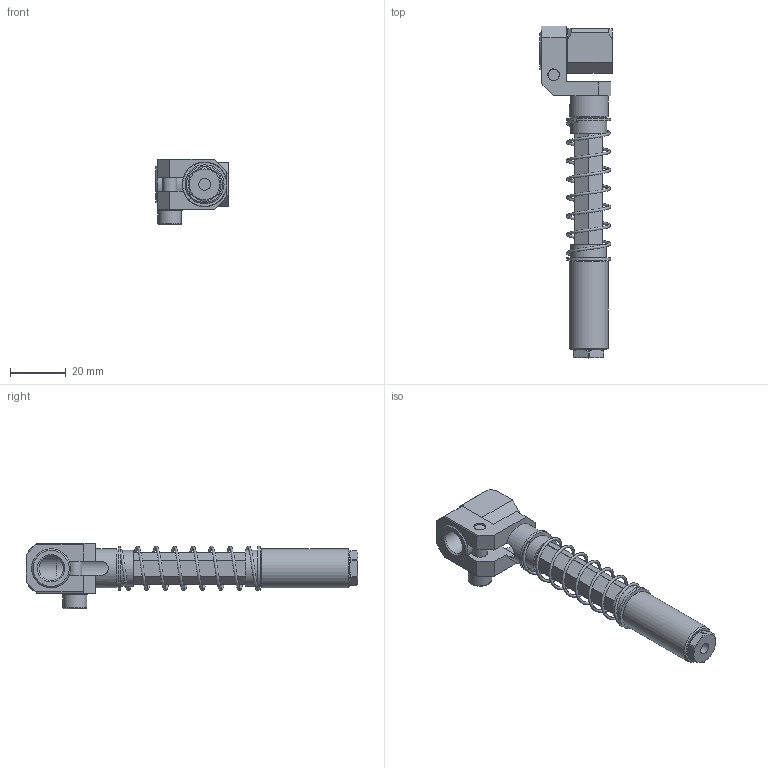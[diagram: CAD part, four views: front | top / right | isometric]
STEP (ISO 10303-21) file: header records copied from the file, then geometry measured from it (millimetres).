
FILE_DESCRIPTION(('STEP AP214'),'1');
FILE_NAME('CA.SAS.14181840.stp','2022-01-21T12:39:37',(' '),(' '),'Spatial InterOp 3D',' ',' ');
FILE_SCHEMA(('AUTOMOTIVE_DESIGN { 1 0 10303 214 1 1 1 1 }'));
Length unit declared in the file: millimetre
Products named in the file (10): CA.SAS.14181840; M.14.8X55; V.TCE5x18; R.5.SCH; GGB.14.18.18; SAE.14181815.4; SAE.14181815.5; SAE.14181815.3; SAE.14181840.1; SAS.14.1
Assembly tree (10 placements, depth 2):
  CA.SAS.14181840
    M.14.8X55
    V.TCE5x18
    R.5.SCH
    GGB.14.18.18
    SAE.14181815.4  x2
    SAE.14181815.5
    SAE.14181815.3
    SAE.14181840.1
    SAS.14.1
Bounding box: 26 x 119 x 23.5 mm (x, y, z)
Volume: 15367.4 mm3; surface area: 16573.3 mm2
Topology: 10 solids, 10 shells, 367 faces, 1000 edges, 654 vertices
Faces by surface type: plane 272, cylinder 53, cone 36, torus 5, bspline 1
Full cylindrical faces by diameter (mm): 4.2 x2, 5 x1, 5.3 x1, 5.5 x1, 6.8 x4, 8 x3, 8.2 x2, 8.5 x1, 8.8 x3, 9 x1, 10 x2, 11.5 x2, 12.9 x2, 13.95 x2, 14 x2, 15.8 x2
Entity records: 16020 total; most frequent: CARTESIAN_POINT 3621, DIRECTION 1896, ORIENTED_EDGE 1854, EDGE_CURVE 927, AXIS2_PLACEMENT_3D 684, VERTEX_POINT 633, LINE 528, VECTOR 528
